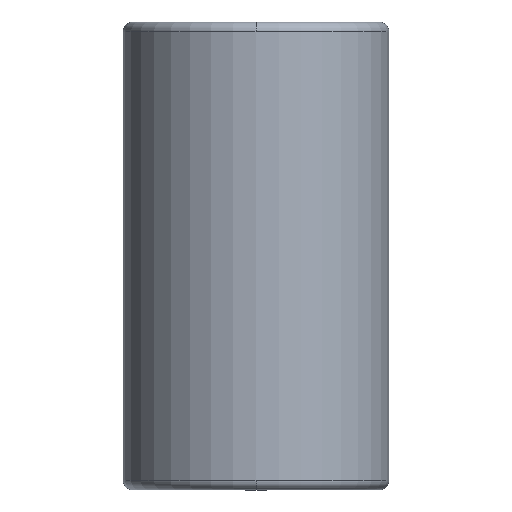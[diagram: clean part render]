
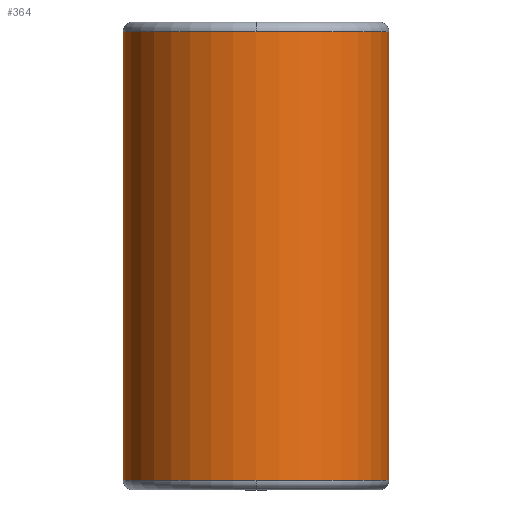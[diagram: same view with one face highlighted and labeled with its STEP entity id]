
A CAD part, front view. The second image highlights one B-rep face of the part: STEP entity #364.
In plain terms, the highlighted cylindrical face has radius 26.993 mm (diameter 53.986 mm), a partial arc.
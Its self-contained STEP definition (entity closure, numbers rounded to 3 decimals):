
#269=CARTESIAN_POINT('',(0.0,-26.993,93.0));
#270=VERTEX_POINT('',#269);
#296=CARTESIAN_POINT('',(-26.993,0.,93.0));
#297=VERTEX_POINT('',#296);
#305=CARTESIAN_POINT('',(0.0,0.,93.0));
#306=DIRECTION('',(0.0,0.0,1.0));
#307=DIRECTION('',(1.0,0.0,0.0));
#308=AXIS2_PLACEMENT_3D('',#305,#306,#307);
#309=CIRCLE('',#308,26.993);
#310=EDGE_CURVE('',#297,#270,#309,.T.);
#315=CARTESIAN_POINT('',(0.0,0.,47.5));
#316=DIRECTION('',(0.0,0.,1.0));
#317=DIRECTION('',(1.0,0.0,0.0));
#318=AXIS2_PLACEMENT_3D('',#315,#316,#317);
#319=CYLINDRICAL_SURFACE('',#318,26.993);
#320=CARTESIAN_POINT('',(26.993,0.,93.0));
#321=VERTEX_POINT('',#320);
#322=CARTESIAN_POINT('',(26.993,0.,2.));
#323=VERTEX_POINT('',#322);
#324=CARTESIAN_POINT('',(26.993,0.,93.0));
#325=DIRECTION('',(0.0,0.0,-1.0));
#326=VECTOR('',#325,91.0);
#327=LINE('',#324,#326);
#328=EDGE_CURVE('',#321,#323,#327,.T.);
#329=ORIENTED_EDGE('',*,*,#328,.F.);
#330=CARTESIAN_POINT('',(0.0,0.,93.0));
#331=DIRECTION('',(0.0,0.0,1.0));
#332=DIRECTION('',(1.0,0.0,0.0));
#333=AXIS2_PLACEMENT_3D('',#330,#331,#332);
#334=CIRCLE('',#333,26.993);
#335=EDGE_CURVE('',#270,#321,#334,.T.);
#336=ORIENTED_EDGE('',*,*,#335,.F.);
#337=ORIENTED_EDGE('',*,*,#310,.F.);
#338=CARTESIAN_POINT('',(-26.993,0.,2.0));
#339=VERTEX_POINT('',#338);
#340=CARTESIAN_POINT('',(-26.993,0.,93.0));
#341=DIRECTION('',(0.0,0.0,-1.0));
#342=VECTOR('',#341,91.0);
#343=LINE('',#340,#342);
#344=EDGE_CURVE('',#297,#339,#343,.T.);
#345=ORIENTED_EDGE('',*,*,#344,.T.);
#346=CARTESIAN_POINT('',(0.0,-26.993,2.));
#347=VERTEX_POINT('',#346);
#348=CARTESIAN_POINT('',(0.0,0.,2.0));
#349=DIRECTION('',(0.0,0.0,1.0));
#350=DIRECTION('',(1.0,0.0,0.0));
#351=AXIS2_PLACEMENT_3D('',#348,#349,#350);
#352=CIRCLE('',#351,26.993);
#353=EDGE_CURVE('',#339,#347,#352,.T.);
#354=ORIENTED_EDGE('',*,*,#353,.T.);
#355=CARTESIAN_POINT('',(0.0,0.,2.0));
#356=DIRECTION('',(0.0,0.0,1.0));
#357=DIRECTION('',(1.0,0.0,0.0));
#358=AXIS2_PLACEMENT_3D('',#355,#356,#357);
#359=CIRCLE('',#358,26.993);
#360=EDGE_CURVE('',#347,#323,#359,.T.);
#361=ORIENTED_EDGE('',*,*,#360,.T.);
#362=EDGE_LOOP('',(#329,#336,#337,#345,#354,#361));
#363=FACE_OUTER_BOUND('',#362,.T.);
#364=ADVANCED_FACE('',(#363),#319,.T.);
